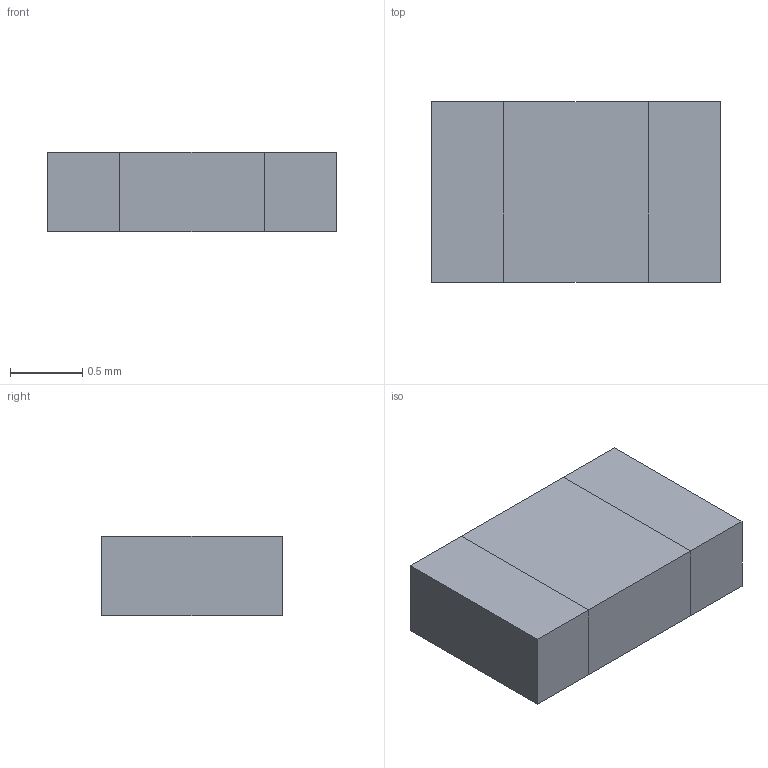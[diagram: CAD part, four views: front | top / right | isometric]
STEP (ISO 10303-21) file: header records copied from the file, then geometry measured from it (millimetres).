
FILE_DESCRIPTION(('shape.step'),'2;1');
FILE_NAME('shape.step','2026-08-07',('tscircuit'),('tscircuit'),'generator','','');
FILE_SCHEMA(('AUTOMOTIVE_DESIGN { 1 0 10303 214 1 1 1 1 }'));
Length unit declared in the file: millimetre
Products named in the file (1): shape
Bounding box: 2 x 1.25 x 0.55 mm (x, y, z)
Volume: 1.4 mm3; surface area: 11.3 mm2
Topology: 3 solids, 3 shells, 18 faces, 36 edges, 24 vertices
Faces by surface type: plane 18
Entity records: 454 total; most frequent: DIRECTION 74, ORIENTED_EDGE 72, CARTESIAN_POINT 43, VECTOR 36, LINE 36, EDGE_CURVE 36, VERTEX_POINT 24, AXIS2_PLACEMENT_3D 19
